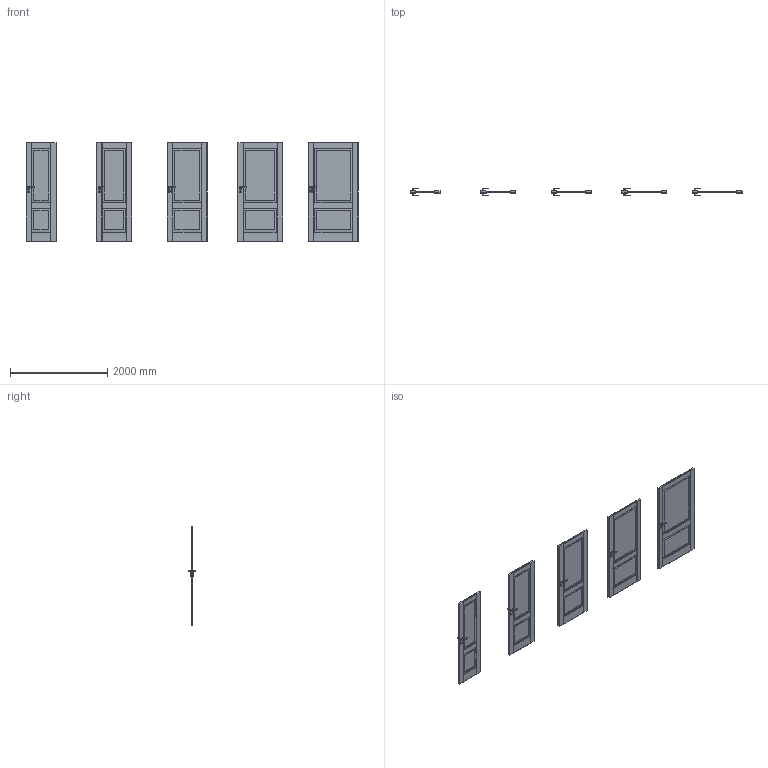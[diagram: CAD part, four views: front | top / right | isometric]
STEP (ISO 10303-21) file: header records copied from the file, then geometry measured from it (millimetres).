
FILE_DESCRIPTION(/* description */ (''),/* implementation_level */ '2;1');
FILE_NAME(/* name */ '049798_A_2-Skrzydło Balance model A_ polska norma _PN__ bezprzylgowe..stp',/* time_stamp */ '2024-07-15T11:30:49+02:00',/* author */ (''),/* organization */ (''),/* preprocessor_version */ 'ST-DEVELOPER v16',/* originating_system */ 'SIEMENS PLM Software NX 11.0',/* authorisation */ '');
FILE_SCHEMA (('AUTOMOTIVE_DESIGN { 1 0 10303 214 3 1 1 1 }'));
Products named in the file (1): bkni0C10B178nqru
Bounding box: 6818 x 153.13 x 2017.02 mm (x, y, z)
Volume: 375209897.8 mm3; surface area: 34175817.1 mm2
Topology: 29 solids, 47 shells, 2523 faces, 6424 edges, 3940 vertices
Faces by surface type: plane 1427, cylinder 796, bspline 160, sphere 140
Entity records: 80108 total; most frequent: CARTESIAN_POINT 19876, ORIENTED_EDGE 12568, DIRECTION 12356, EDGE_CURVE 6284, LINE 4268, VECTOR 4268, AXIS2_PLACEMENT_3D 4044, VERTEX_POINT 3940
